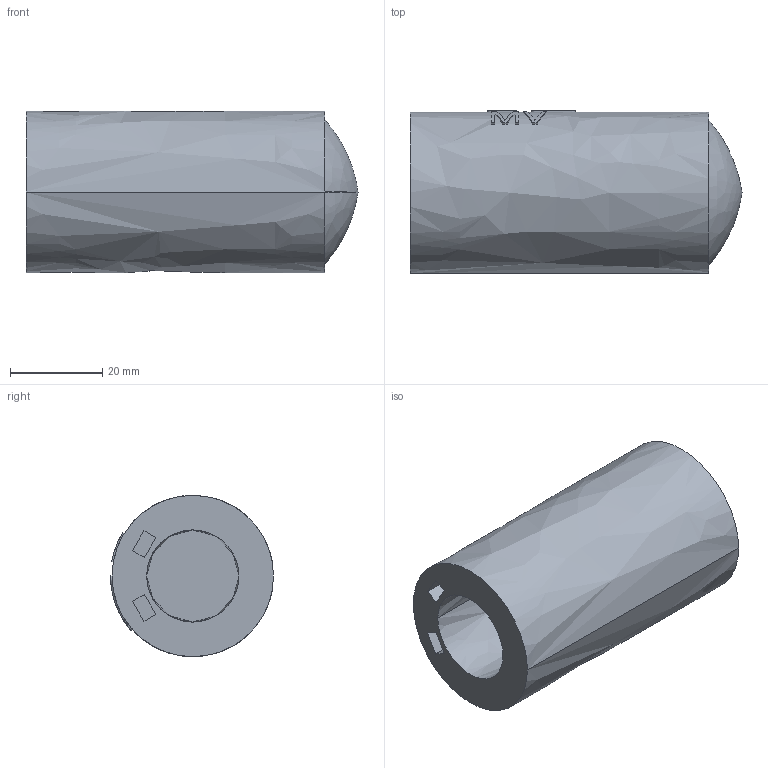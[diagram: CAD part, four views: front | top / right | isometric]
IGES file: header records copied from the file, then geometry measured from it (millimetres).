
Start section:  PTC IGES file: mv_d20.igs
Global section: file name: mv_d20.igs; native system: Pro/ENGINEER by Parametric Technology Corporation; preprocessor: 2006140; author: muellerc; organization: Unknown; date: 20060803.101038; units: millimetre
Bounding box: 72 x 35.35 x 35 mm (x, y, z)
Surface area: 11477.2 mm2 (no closed solid volume)
Topology: 0 solids, 0 shells, 63 faces, 381 edges, 386 vertices
Faces by surface type: bspline 63
